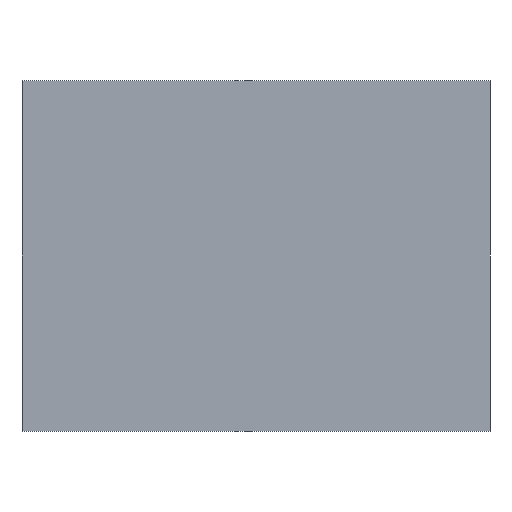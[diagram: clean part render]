
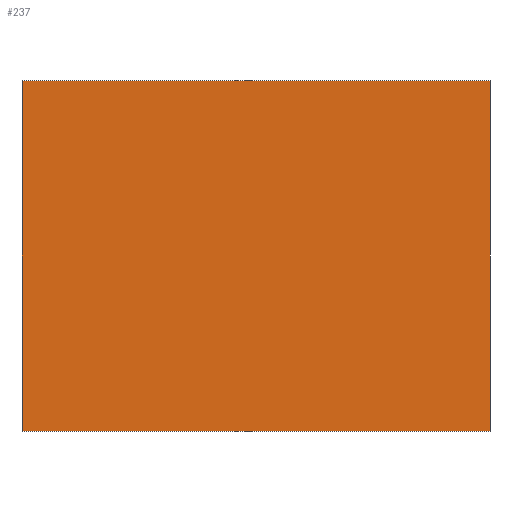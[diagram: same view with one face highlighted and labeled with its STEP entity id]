
A CAD part, front view. The second image highlights one B-rep face of the part: STEP entity #237.
In plain terms, the highlighted planar face has unit normal (0, -1, 0).
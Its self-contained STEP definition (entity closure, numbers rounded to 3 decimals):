
#21 = EDGE_CURVE('',#22,#24,#26,.T.);
#22 = VERTEX_POINT('',#23);
#23 = CARTESIAN_POINT('',(510.,-153.,-134.));
#24 = VERTEX_POINT('',#25);
#25 = CARTESIAN_POINT('',(510.,-153.,128.));
#26 = SURFACE_CURVE('',#27,(#31,#43),.PCURVE_S1.);
#27 = LINE('',#28,#29);
#28 = CARTESIAN_POINT('',(510.,-153.,-134.));
#29 = VECTOR('',#30,1.);
#30 = DIRECTION('',(0.,0.,1.));
#31 = PCURVE('',#32,#37);
#32 = PLANE('',#33);
#33 = AXIS2_PLACEMENT_3D('',#34,#35,#36);
#34 = CARTESIAN_POINT('',(510.,-153.,-134.));
#35 = DIRECTION('',(1.,0.,0.));
#36 = DIRECTION('',(0.,0.,1.));
#37 = DEFINITIONAL_REPRESENTATION('',(#38),#42);
#38 = LINE('',#39,#40);
#39 = CARTESIAN_POINT('',(0.,0.));
#40 = VECTOR('',#41,1.);
#41 = DIRECTION('',(1.,0.));
#42 = ( GEOMETRIC_REPRESENTATION_CONTEXT(2) 
PARAMETRIC_REPRESENTATION_CONTEXT() REPRESENTATION_CONTEXT('2D SPACE',''
  ) );
#43 = PCURVE('',#44,#49);
#44 = PLANE('',#45);
#45 = AXIS2_PLACEMENT_3D('',#46,#47,#48);
#46 = CARTESIAN_POINT('',(510.,-153.,-134.));
#47 = DIRECTION('',(0.,1.,0.));
#48 = DIRECTION('',(0.,0.,1.));
#49 = DEFINITIONAL_REPRESENTATION('',(#50),#54);
#50 = LINE('',#51,#52);
#51 = CARTESIAN_POINT('',(0.,0.));
#52 = VECTOR('',#53,1.);
#53 = DIRECTION('',(1.,0.));
#54 = ( GEOMETRIC_REPRESENTATION_CONTEXT(2) 
PARAMETRIC_REPRESENTATION_CONTEXT() REPRESENTATION_CONTEXT('2D SPACE',''
  ) );
#72 = PLANE('',#73);
#73 = AXIS2_PLACEMENT_3D('',#74,#75,#76);
#74 = CARTESIAN_POINT('',(510.,-153.,-134.));
#75 = DIRECTION('',(0.,0.,1.));
#76 = DIRECTION('',(1.,0.,0.));
#126 = PLANE('',#127);
#127 = AXIS2_PLACEMENT_3D('',#128,#129,#130);
#128 = CARTESIAN_POINT('',(510.,-153.,128.));
#129 = DIRECTION('',(0.,0.,1.));
#130 = DIRECTION('',(1.,0.,0.));
#141 = EDGE_CURVE('',#142,#144,#146,.T.);
#142 = VERTEX_POINT('',#143);
#143 = CARTESIAN_POINT('',(860.,-153.,-134.));
#144 = VERTEX_POINT('',#145);
#145 = CARTESIAN_POINT('',(860.,-153.,128.));
#146 = SURFACE_CURVE('',#147,(#151,#163),.PCURVE_S1.);
#147 = LINE('',#148,#149);
#148 = CARTESIAN_POINT('',(860.,-153.,-134.));
#149 = VECTOR('',#150,1.);
#150 = DIRECTION('',(0.,0.,1.));
#151 = PCURVE('',#152,#157);
#152 = PLANE('',#153);
#153 = AXIS2_PLACEMENT_3D('',#154,#155,#156);
#154 = CARTESIAN_POINT('',(860.,-153.,-134.));
#155 = DIRECTION('',(1.,0.,0.));
#156 = DIRECTION('',(0.,0.,1.));
#157 = DEFINITIONAL_REPRESENTATION('',(#158),#162);
#158 = LINE('',#159,#160);
#159 = CARTESIAN_POINT('',(0.,0.));
#160 = VECTOR('',#161,1.);
#161 = DIRECTION('',(1.,0.));
#162 = ( GEOMETRIC_REPRESENTATION_CONTEXT(2) 
PARAMETRIC_REPRESENTATION_CONTEXT() REPRESENTATION_CONTEXT('2D SPACE',''
  ) );
#163 = PCURVE('',#44,#164);
#164 = DEFINITIONAL_REPRESENTATION('',(#165),#169);
#165 = LINE('',#166,#167);
#166 = CARTESIAN_POINT('',(0.,350.));
#167 = VECTOR('',#168,1.);
#168 = DIRECTION('',(1.,0.));
#169 = ( GEOMETRIC_REPRESENTATION_CONTEXT(2) 
PARAMETRIC_REPRESENTATION_CONTEXT() REPRESENTATION_CONTEXT('2D SPACE',''
  ) );
#237 = ADVANCED_FACE('',(#238),#44,.F.);
#238 = FACE_BOUND('',#239,.F.);
#239 = EDGE_LOOP('',(#240,#261,#262,#283));
#240 = ORIENTED_EDGE('',*,*,#241,.F.);
#241 = EDGE_CURVE('',#22,#142,#242,.T.);
#242 = SURFACE_CURVE('',#243,(#247,#254),.PCURVE_S1.);
#243 = LINE('',#244,#245);
#244 = CARTESIAN_POINT('',(510.,-153.,-134.));
#245 = VECTOR('',#246,1.);
#246 = DIRECTION('',(1.,0.,0.));
#247 = PCURVE('',#44,#248);
#248 = DEFINITIONAL_REPRESENTATION('',(#249),#253);
#249 = LINE('',#250,#251);
#250 = CARTESIAN_POINT('',(0.,0.));
#251 = VECTOR('',#252,1.);
#252 = DIRECTION('',(0.,1.));
#253 = ( GEOMETRIC_REPRESENTATION_CONTEXT(2) 
PARAMETRIC_REPRESENTATION_CONTEXT() REPRESENTATION_CONTEXT('2D SPACE',''
  ) );
#254 = PCURVE('',#72,#255);
#255 = DEFINITIONAL_REPRESENTATION('',(#256),#260);
#256 = LINE('',#257,#258);
#257 = CARTESIAN_POINT('',(0.,0.));
#258 = VECTOR('',#259,1.);
#259 = DIRECTION('',(1.,0.));
#260 = ( GEOMETRIC_REPRESENTATION_CONTEXT(2) 
PARAMETRIC_REPRESENTATION_CONTEXT() REPRESENTATION_CONTEXT('2D SPACE',''
  ) );
#261 = ORIENTED_EDGE('',*,*,#21,.T.);
#262 = ORIENTED_EDGE('',*,*,#263,.T.);
#263 = EDGE_CURVE('',#24,#144,#264,.T.);
#264 = SURFACE_CURVE('',#265,(#269,#276),.PCURVE_S1.);
#265 = LINE('',#266,#267);
#266 = CARTESIAN_POINT('',(510.,-153.,128.));
#267 = VECTOR('',#268,1.);
#268 = DIRECTION('',(1.,0.,0.));
#269 = PCURVE('',#44,#270);
#270 = DEFINITIONAL_REPRESENTATION('',(#271),#275);
#271 = LINE('',#272,#273);
#272 = CARTESIAN_POINT('',(262.,0.));
#273 = VECTOR('',#274,1.);
#274 = DIRECTION('',(0.,1.));
#275 = ( GEOMETRIC_REPRESENTATION_CONTEXT(2) 
PARAMETRIC_REPRESENTATION_CONTEXT() REPRESENTATION_CONTEXT('2D SPACE',''
  ) );
#276 = PCURVE('',#126,#277);
#277 = DEFINITIONAL_REPRESENTATION('',(#278),#282);
#278 = LINE('',#279,#280);
#279 = CARTESIAN_POINT('',(0.,0.));
#280 = VECTOR('',#281,1.);
#281 = DIRECTION('',(1.,0.));
#282 = ( GEOMETRIC_REPRESENTATION_CONTEXT(2) 
PARAMETRIC_REPRESENTATION_CONTEXT() REPRESENTATION_CONTEXT('2D SPACE',''
  ) );
#283 = ORIENTED_EDGE('',*,*,#141,.F.);
